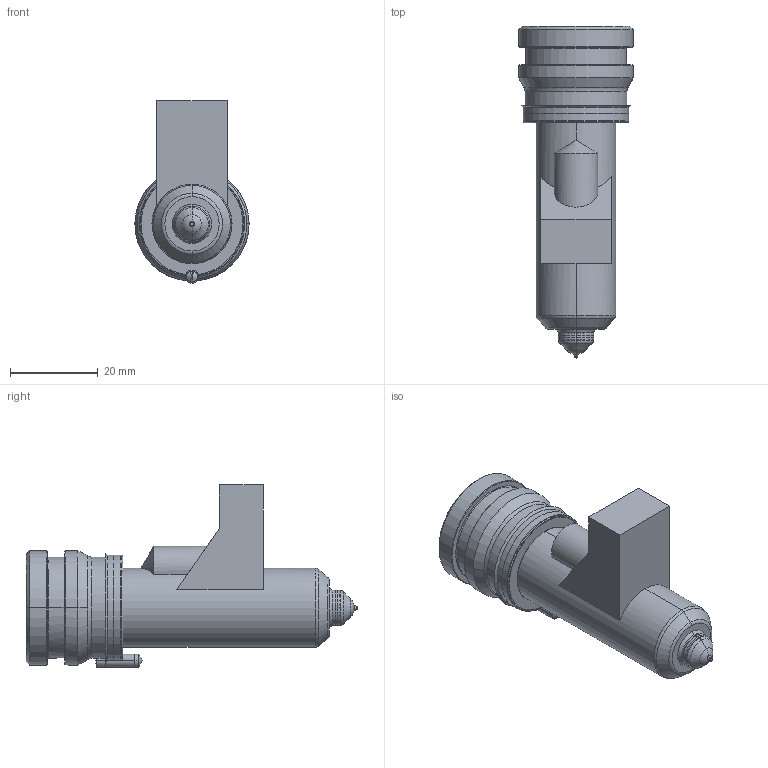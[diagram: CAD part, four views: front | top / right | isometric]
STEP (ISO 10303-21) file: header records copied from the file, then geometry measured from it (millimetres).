
FILE_DESCRIPTION((''),'2;1');
FILE_NAME('MPN-08-24-VX8-056-M','2026-02-05T13:30:36',('UPTIO'),('Thermoplay S.p.A.'),'CREO PARAMETRIC BY PTC INC, 2023494','CREO PARAMETRIC BY PTC INC, 2023494','');
FILE_SCHEMA(('CONFIG_CONTROL_DESIGN','SHAPE_APPEARANCE_LAYERS_GROUPS'));
Length unit declared in the file: millimetre
Products named in the file (1): MPN-08-24-VX8-056-M
Bounding box: 26 x 75.5 x 41.5 mm (x, y, z)
Volume: 15993.9 mm3; surface area: 20357 mm2
Topology: 2 solids, 3 shells, 529 faces, 1372 edges, 842 vertices
Faces by surface type: cylinder 174, plane 143, bspline 77, torus 60, cone 60, sphere 9, extrusion 6
Entity records: 28447 total; most frequent: CARTESIAN_POINT 12926, ORIENTED_EDGE 2726, DIRECTION 2495, EDGE_CURVE 1363, AXIS2_PLACEMENT_3D 975, VERTEX_POINT 842, EDGE_LOOP 559, VECTOR 545
